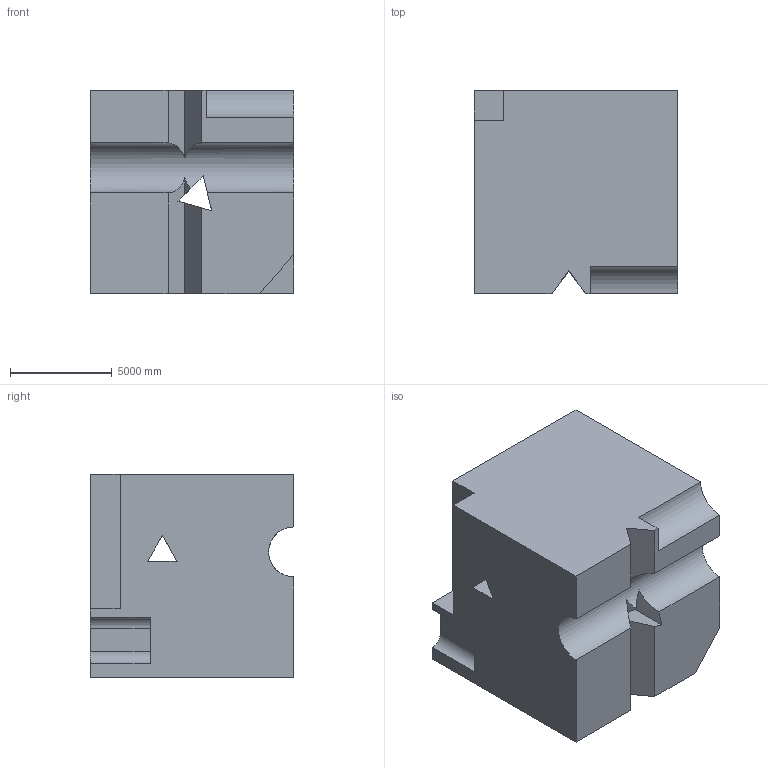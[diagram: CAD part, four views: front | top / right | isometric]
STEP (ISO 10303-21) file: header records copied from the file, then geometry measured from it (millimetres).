
FILE_DESCRIPTION (( 'STEP AP203' ), '1' );
FILE_NAME ('381.STEP', '2022-09-07T13:22:48', ( 'user' ), ( '' ), 'SwSTEP 2.0', 'SolidWorks 2021', '' );
FILE_SCHEMA (( 'CONFIG_CONTROL_DESIGN' ));
Length unit declared in the file: centimetre
Products named in the file (1): 381
Bounding box: 10000 x 10000 x 10000 mm (x, y, z)
Volume: 855507401989.8 mm3; surface area: 817511910.6 mm2
Topology: 1 solids, 1 shells, 42 faces, 120 edges, 80 vertices
Faces by surface type: plane 32, cylinder 10
Entity records: 1453 total; most frequent: CARTESIAN_POINT 261, ORIENTED_EDGE 240, DIRECTION 220, EDGE_CURVE 120, LINE 94, VECTOR 94, VERTEX_POINT 80, AXIS2_PLACEMENT_3D 63
